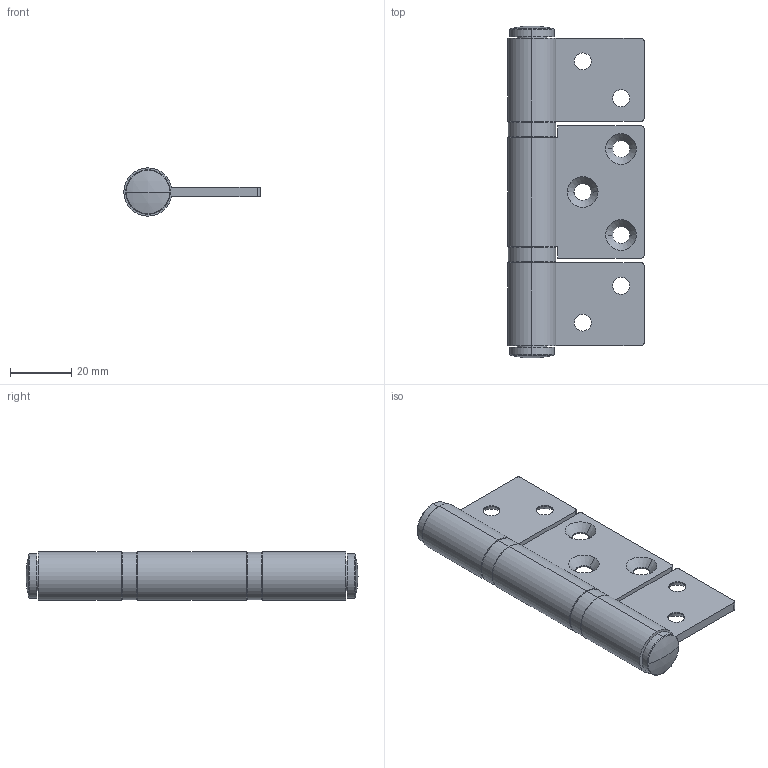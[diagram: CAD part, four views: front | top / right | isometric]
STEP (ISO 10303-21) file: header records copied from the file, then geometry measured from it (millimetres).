
FILE_DESCRIPTION (( 'STEP AP214' ), '1' );
FILE_NAME ('E3 Straight Hinge - Closed.STEP', '2024-06-26T04:16:41', ( '' ), ( '' ), 'SwSTEP 2.0', 'SolidWorks 2023', '' );
FILE_SCHEMA (( 'AUTOMOTIVE_DESIGN' ));
Length unit declared in the file: millimetre
Products named in the file (5): E3 Straight Hinge - Closed; E3 Straight Flap Outer B^E3 Straight Hinge; E3 Straight Flap Outer A^E3 Straight Hinge; E3 Hinge Pin^E3 Straight Hinge; E3 Straight flap middle^E3 Straight Hinge
Assembly tree (4 placements, depth 2):
  E3 Straight Hinge - Closed
    E3 Hinge Pin^E3 Straight Hinge
    E3 Straight Flap Outer B^E3 Straight Hinge
    E3 Straight flap middle^E3 Straight Hinge
    E3 Straight Flap Outer A^E3 Straight Hinge
Bounding box: 44.35 x 108 x 15.7 mm (x, y, z)
Volume: 27480.2 mm3; surface area: 18300.3 mm2
Topology: 4 solids, 4 shells, 104 faces, 246 edges, 156 vertices
Faces by surface type: cylinder 49, plane 25, cone 22, torus 4, sphere 4
Entity records: 3228 total; most frequent: DIRECTION 604, CARTESIAN_POINT 513, ORIENTED_EDGE 492, AXIS2_PLACEMENT_3D 247, EDGE_CURVE 246, VERTEX_POINT 156, CIRCLE 136, EDGE_LOOP 130
